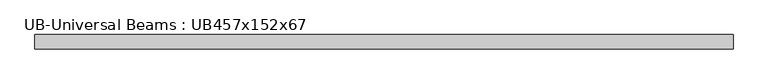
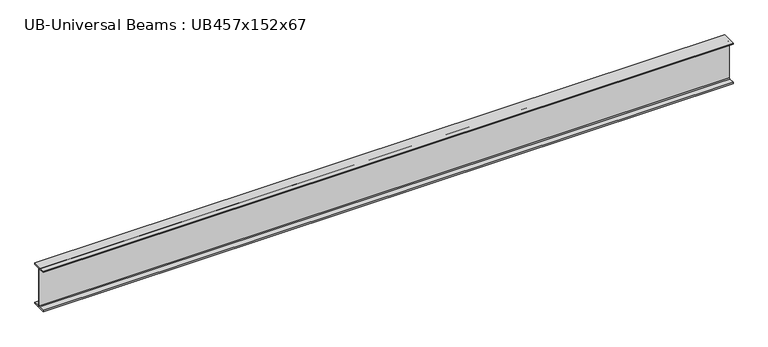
"""IFC4 building model written with IfcOpenShell, lengths in millimetres: beam geometry, UB-Universal Beams : UB457x152x67."""

from ifc_helpers import new_model, si_unit, point, frame, frame_2d, origin, place, context, project, spatial, polyline, circle_curve, trimmed, segment, composite_curve, outline, extrude, source, transform, mapped, element, save


def ub_universal_beams_ub457x152x67_bb2d3bd6(model_context):
    return source(origin(), model_context, "Body", "SweptSolid", [
        extrude(outline(composite_curve([segment(polyline([(76.9, -214.0), (76.9, -229.0), (-76.9, -229.0), (-76.9, -214.0), (-14.7, -214.0)]), True, "CONTINUOUS"), segment(trimmed(circle_curve(frame_2d((-14.7, -203.8)), 10.2), [point((-14.7, -214.0))], [point((-4.5, -203.8))], True, "CARTESIAN"), True, "CONTINUOUS"), segment(polyline([(-4.5, -203.8), (-4.5, 203.8)]), True, "CONTINUOUS"), segment(trimmed(circle_curve(frame_2d((-14.7, 203.8)), 10.2), [point((-4.5, 203.8))], [point((-14.7, 214.0))], True, "CARTESIAN"), True, "CONTINUOUS"), segment(polyline([(-14.7, 214.0), (-76.9, 214.0), (-76.9, 229.0), (76.9, 229.0), (76.9, 214.0), (14.7, 214.0)]), True, "CONTINUOUS"), segment(trimmed(circle_curve(frame_2d((14.7, 203.8)), 10.2), [point((14.7, 214.0))], [point((4.5, 203.8))], True, "CARTESIAN"), True, "CONTINUOUS"), segment(polyline([(4.5, 203.8), (4.5, -203.8)]), True, "CONTINUOUS"), segment(trimmed(circle_curve(frame_2d((14.7, -203.8)), 10.2), [point((4.5, -203.8))], [point((14.7, -214.0))], True, "CARTESIAN"), True, "CONTINUOUS"), segment(polyline([(14.7, -214.0), (76.9, -214.0)]), True, "CONTINUOUS")], self_intersect=False)), frame((-3674.8, 0.0, 0.0), z_axis=(1.0, 0.0, 0.0), x_axis=(0.0, 1.0, 0.0)), (0.0, 0.0, 1.0), 7372.7),
    ])


if __name__ == "__main__":
    model = new_model("IFC4")
    model_context = context("Model", 3, world=origin())
    ifc_project = project(units=[si_unit("LENGTHUNIT", "METRE", prefix="MILLI")], contexts=[model_context])
    site = spatial("IfcSite", under=ifc_project)
    building = spatial("IfcBuilding", under=site)
    placement = place(None, origin())
    ub_universal_beams_ub457x152x67_shape = ub_universal_beams_ub457x152x67_bb2d3bd6(model_context)
    element("IfcBeam", 1, ObjectType="UB-Universal Beams : UB457x152x67", at=placement, inside=building, context=model_context, shape_type="MappedRepresentation", body=[
        mapped(ub_universal_beams_ub457x152x67_shape, transform((0.0, 0.0, 0.0), x_axis=(1.0, 0.0, 0.0), y_axis=(0.0, 1.0, 0.0), z_axis=(0.0, 0.0, 1.0))),
    ])
    save(model, "model.ifc")
